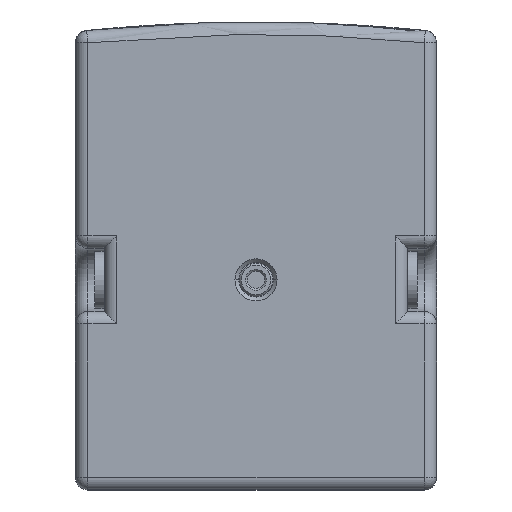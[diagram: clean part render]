
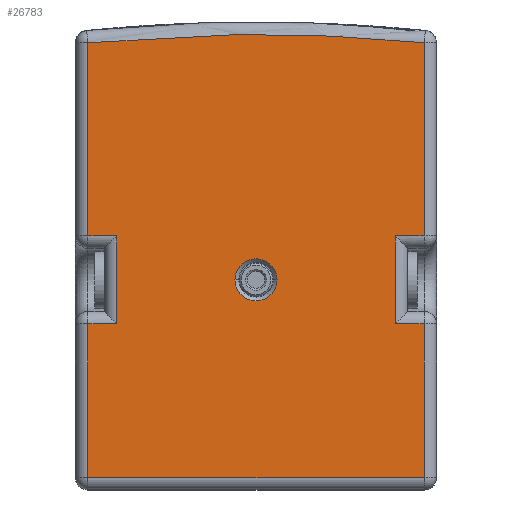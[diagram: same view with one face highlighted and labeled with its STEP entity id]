
A CAD part, front view. The second image highlights one B-rep face of the part: STEP entity #26783.
In plain terms, the highlighted planar face has unit normal (0, -1, 0) as drawn and (0, 0, -1) by its records, which use the part's own axes.
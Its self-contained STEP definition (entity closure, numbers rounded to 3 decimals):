
#9461 = CARTESIAN_POINT ( 'NONE',  ( 6.5, 158., -7.5 ) ) ;
#9546 = CARTESIAN_POINT ( 'NONE',  ( 6.5, 10.866, -7.5 ) ) ;
#9835 = CARTESIAN_POINT ( 'NONE',  ( 83.5, 135., -7.5 ) ) ;
#9836 = DIRECTION ( 'NONE',  ( -1., 0., 0. ) ) ;
#9837 = DIRECTION ( 'NONE',  ( 0., 0., -1. ) ) ;
#9838 = CARTESIAN_POINT ( 'NONE',  ( 94.5, 135., -7.5 ) ) ;
#9839 = AXIS2_PLACEMENT_3D ( 'NONE', #9838, #9837, #9836 ) ;
#9840 = CIRCLE ( 'NONE', #9839, 11. ) ;
#9841 = CARTESIAN_POINT ( 'NONE',  ( 105.5, 135., -7.5 ) ) ;
#10541 = DIRECTION ( 'NONE',  ( 0., -1., 0. ) ) ;
#10542 = VECTOR ( 'NONE', #10541, 1000. ) ;
#10543 = CARTESIAN_POINT ( 'NONE',  ( 6.5, 198.25, -7.5 ) ) ;
#10544 = LINE ( 'NONE', #10543, #10542 ) ;
#10570 = CARTESIAN_POINT ( 'NONE',  ( 6.5, 238.5, -7.5 ) ) ;
#10588 = DIRECTION ( 'NONE',  ( 0., -1., 0. ) ) ;
#10589 = VECTOR ( 'NONE', #10588, 1000. ) ;
#10590 = CARTESIAN_POINT ( 'NONE',  ( 6.5, 181.75, -7.5 ) ) ;
#10591 = LINE ( 'NONE', #10590, #10589 ) ;
#10592 = CARTESIAN_POINT ( 'NONE',  ( 6.5, 112., -7.5 ) ) ;
#11141 = CARTESIAN_POINT ( 'NONE',  ( 182.5, 10.866, -7.5 ) ) ;
#11142 = CARTESIAN_POINT ( 'NONE',  ( 123.93, 5.04, -7.5 ) ) ;
#11143 = CARTESIAN_POINT ( 'NONE',  ( 65.07, 5.04, -7.5 ) ) ;
#11144 = CARTESIAN_POINT ( 'NONE',  ( 6.5, 10.866, -7.5 ) ) ;
#11145 =( BOUNDED_CURVE ( )  B_SPLINE_CURVE ( 3, ( #11144, #11143, #11142, #11141 ),
 .UNSPECIFIED., .F., .T. ) 
 B_SPLINE_CURVE_WITH_KNOTS ( ( 4, 4 ),
 ( 0., 1. ),
 .UNSPECIFIED. ) 
 CURVE ( )  GEOMETRIC_REPRESENTATION_ITEM ( )  RATIONAL_B_SPLINE_CURVE ( ( 1., 0.997, 0.997, 1. ) ) 
 REPRESENTATION_ITEM ( '' )  );
#11147 = CARTESIAN_POINT ( 'NONE',  ( 182.5, 10.866, -7.5 ) ) ;
#11424 = CARTESIAN_POINT ( 'NONE',  ( 21.5, 112., -7.5 ) ) ;
#11425 = DIRECTION ( 'NONE',  ( -1., 0., 0. ) ) ;
#11426 = VECTOR ( 'NONE', #11425, 1000. ) ;
#11427 = CARTESIAN_POINT ( 'NONE',  ( 0.5, 112., -7.5 ) ) ;
#11428 = LINE ( 'NONE', #11427, #11426 ) ;
#11473 = CARTESIAN_POINT ( 'NONE',  ( 0.5, 158., -7.5 ) ) ;
#11474 = LINE ( 'NONE', #11473, #11526 ) ;
#11496 = DIRECTION ( 'NONE',  ( 1., 0., 0. ) ) ;
#11497 = VECTOR ( 'NONE', #11496, 1000. ) ;
#11498 = CARTESIAN_POINT ( 'NONE',  ( 0.5, 158., -7.5 ) ) ;
#11499 = LINE ( 'NONE', #11498, #11497 ) ;
#11500 = CARTESIAN_POINT ( 'NONE',  ( 21.5, 158., -7.5 ) ) ;
#11501 = DIRECTION ( 'NONE',  ( 0., -1., 0. ) ) ;
#11502 = VECTOR ( 'NONE', #11501, 1000. ) ;
#11503 = CARTESIAN_POINT ( 'NONE',  ( 21.5, 245., -7.5 ) ) ;
#11504 = LINE ( 'NONE', #11503, #11502 ) ;
#11511 = DIRECTION ( 'NONE',  ( -1., 0., 0. ) ) ;
#11512 = DIRECTION ( 'NONE',  ( 0., 0., -1. ) ) ;
#11513 = CARTESIAN_POINT ( 'NONE',  ( 94.5, 135., -7.5 ) ) ;
#11514 = AXIS2_PLACEMENT_3D ( 'NONE', #11513, #11512, #11511 ) ;
#11515 = CIRCLE ( 'NONE', #11514, 11. ) ;
#11516 = DIRECTION ( 'NONE',  ( -1., 0., 0. ) ) ;
#11517 = VECTOR ( 'NONE', #11516, 1000. ) ;
#11518 = CARTESIAN_POINT ( 'NONE',  ( 0.5, 112., -7.5 ) ) ;
#11519 = LINE ( 'NONE', #11518, #11517 ) ;
#11520 = CARTESIAN_POINT ( 'NONE',  ( 167.5, 112., -7.5 ) ) ;
#11521 = DIRECTION ( 'NONE',  ( 0., 1., 0. ) ) ;
#11522 = VECTOR ( 'NONE', #11521, 1000. ) ;
#11523 = CARTESIAN_POINT ( 'NONE',  ( 167.5, 245., -7.5 ) ) ;
#11524 = LINE ( 'NONE', #11523, #11522 ) ;
#11525 = DIRECTION ( 'NONE',  ( 1., 0., 0. ) ) ;
#11526 = VECTOR ( 'NONE', #11525, 1000. ) ;
#11532 = CARTESIAN_POINT ( 'NONE',  ( 182.5, 112., -7.5 ) ) ;
#11533 = DIRECTION ( 'NONE',  ( 0., 1., 0. ) ) ;
#11534 = VECTOR ( 'NONE', #11533, 1000. ) ;
#11535 = CARTESIAN_POINT ( 'NONE',  ( 182.5, 245., -7.5 ) ) ;
#11536 = DIRECTION ( 'NONE',  ( 1., 0., 0. ) ) ;
#11537 = DIRECTION ( 'NONE',  ( 0., 0., 1. ) ) ;
#11538 = CARTESIAN_POINT ( 'NONE',  ( 0.5, 245., -7.5 ) ) ;
#11539 = LINE ( 'NONE', #11535, #11534 ) ;
#11540 = AXIS2_PLACEMENT_3D ( 'NONE', #11538, #11537, #11536 ) ;
#11541 = PLANE ( 'NONE',  #11540 ) ;
#11542 = FACE_BOUND ( 'NONE', #26760, .T. ) ;
#11543 = FACE_OUTER_BOUND ( 'NONE', #26784, .T. ) ;
#11549 = CARTESIAN_POINT ( 'NONE',  ( 167.5, 158., -7.5 ) ) ;
#11550 = CARTESIAN_POINT ( 'NONE',  ( 182.5, 158., -7.5 ) ) ;
#11551 = DIRECTION ( 'NONE',  ( 0., 1., 0. ) ) ;
#11552 = VECTOR ( 'NONE', #11551, 1000. ) ;
#11553 = CARTESIAN_POINT ( 'NONE',  ( 182.5, 245., -7.5 ) ) ;
#11554 = LINE ( 'NONE', #11553, #11552 ) ;
#11555 = CARTESIAN_POINT ( 'NONE',  ( 182.5, 238.5, -7.5 ) ) ;
#11556 = DIRECTION ( 'NONE',  ( -1., 0., 0. ) ) ;
#11557 = VECTOR ( 'NONE', #11556, 1000. ) ;
#11558 = CARTESIAN_POINT ( 'NONE',  ( 0.5, 238.5, -7.5 ) ) ;
#11559 = LINE ( 'NONE', #11558, #11557 ) ;
#25736 = VERTEX_POINT ( 'NONE', #9461 ) ;
#25780 = VERTEX_POINT ( 'NONE', #9546 ) ;
#25903 = VERTEX_POINT ( 'NONE', #9841 ) ;
#25905 = EDGE_CURVE ( 'NONE', #25903, #25906, #9840, .T. ) ;
#25906 = VERTEX_POINT ( 'NONE', #9835 ) ;
#26191 = EDGE_CURVE ( 'NONE', #26214, #25736, #10544, .T. ) ;
#26214 = VERTEX_POINT ( 'NONE', #10570 ) ;
#26234 = VERTEX_POINT ( 'NONE', #10592 ) ;
#26236 = EDGE_CURVE ( 'NONE', #26234, #25780, #10591, .T. ) ;
#26543 = EDGE_CURVE ( 'NONE', #25780, #26544, #11145, .T. ) ;
#26544 = VERTEX_POINT ( 'NONE', #11147 ) ;
#26702 = ORIENTED_EDGE ( 'NONE', *, *, #26543, .F. ) ;
#26703 = ORIENTED_EDGE ( 'NONE', *, *, #26236, .F. ) ;
#26704 = ORIENTED_EDGE ( 'NONE', *, *, #26705, .F. ) ;
#26705 = EDGE_CURVE ( 'NONE', #26706, #26234, #11428, .T. ) ;
#26706 = VERTEX_POINT ( 'NONE', #11424 ) ;
#26753 = ORIENTED_EDGE ( 'NONE', *, *, #26754, .F. ) ;
#26754 = EDGE_CURVE ( 'NONE', #26779, #26778, #11474, .T. ) ;
#26755 = ORIENTED_EDGE ( 'NONE', *, *, #26756, .F. ) ;
#26756 = EDGE_CURVE ( 'NONE', #26757, #26779, #11524, .T. ) ;
#26757 = VERTEX_POINT ( 'NONE', #11520 ) ;
#26758 = ORIENTED_EDGE ( 'NONE', *, *, #26759, .F. ) ;
#26759 = EDGE_CURVE ( 'NONE', #26787, #26757, #11519, .T. ) ;
#26760 = EDGE_LOOP ( 'NONE', ( #26761, #26763 ) ) ;
#26761 = ORIENTED_EDGE ( 'NONE', *, *, #26762, .F. ) ;
#26762 = EDGE_CURVE ( 'NONE', #25906, #25903, #11515, .T. ) ;
#26763 = ORIENTED_EDGE ( 'NONE', *, *, #25905, .F. ) ;
#26767 = ORIENTED_EDGE ( 'NONE', *, *, #26768, .F. ) ;
#26768 = EDGE_CURVE ( 'NONE', #26769, #26706, #11504, .T. ) ;
#26769 = VERTEX_POINT ( 'NONE', #11500 ) ;
#26770 = ORIENTED_EDGE ( 'NONE', *, *, #26771, .F. ) ;
#26771 = EDGE_CURVE ( 'NONE', #25736, #26769, #11499, .T. ) ;
#26772 = ORIENTED_EDGE ( 'NONE', *, *, #26191, .F. ) ;
#26773 = ORIENTED_EDGE ( 'NONE', *, *, #26774, .F. ) ;
#26774 = EDGE_CURVE ( 'NONE', #26775, #26214, #11559, .T. ) ;
#26775 = VERTEX_POINT ( 'NONE', #11555 ) ;
#26776 = ORIENTED_EDGE ( 'NONE', *, *, #26777, .F. ) ;
#26777 = EDGE_CURVE ( 'NONE', #26778, #26775, #11554, .T. ) ;
#26778 = VERTEX_POINT ( 'NONE', #11550 ) ;
#26779 = VERTEX_POINT ( 'NONE', #11549 ) ;
#26783 = ADVANCED_FACE ( 'NONE', ( #11543, #11542 ), #11541, .F. ) ;
#26784 = EDGE_LOOP ( 'NONE', ( #26785, #26702, #26703, #26704, #26767, #26770, #26772, #26773, #26776, #26753, #26755, #26758 ) ) ;
#26785 = ORIENTED_EDGE ( 'NONE', *, *, #26786, .F. ) ;
#26786 = EDGE_CURVE ( 'NONE', #26544, #26787, #11539, .T. ) ;
#26787 = VERTEX_POINT ( 'NONE', #11532 ) ;
